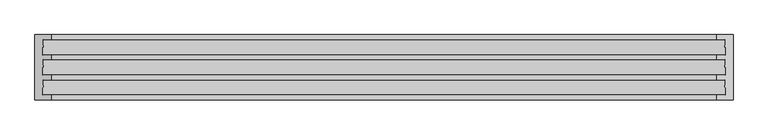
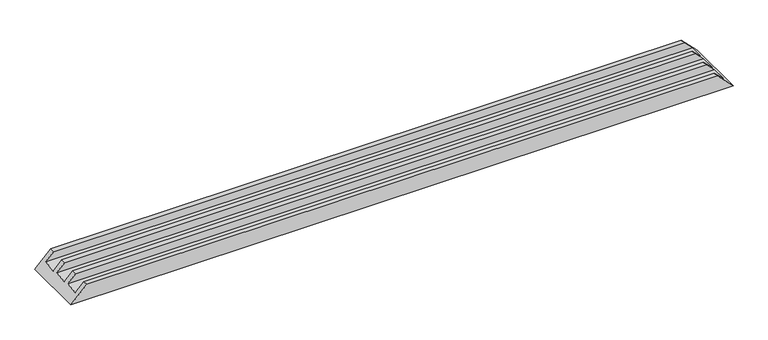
"""IFC4 building model written with IfcOpenShell, lengths in millimetres: proxy geometry, Weiku - Montante - Caixilho quadruplo 02.2.01.003-002 refilado : Weiku - Montante - Caixilho quadruplo 02.2.01.003-002 refilado."""

from ifc_helpers import new_model, si_unit, origin, place, context, project, spatial, faceted_brep, source, transform, mapped, element, save


def generic_models_db702dd2(model_context):
    return source(origin(), model_context, "Body", "Brep", [
        faceted_brep([(-1049.5, -77.0, 26.0), (1049.5, -77.0, 26.0), (1023.5, -77.0, 52.0), (-1023.5, -77.0, 52.0), (-1051.7229744, -124.0, 23.7770256), (1051.7229744, -124.0, 23.7770256), (-1023.5, -124.0, 52.0), (1023.5, -124.0, 52.0), (-1023.5, -139.0, 52.0), (1023.5, -139.0, 52.0), (-1075.5, -201.0, 0.0), (-1075.5, 0.0, 0.0), (1075.5, 0.0, 0.0), (1075.5, -201.0, 0.0), (1023.5, -62.0, 52.0), (-1023.5, -62.0, 52.0), (-1049.5, -139.0, 26.0), (1049.5, -139.0, 26.0), (-1051.7229744, -186.0, 23.7770256), (1051.7229744, -186.0, 23.7770256), (-1023.5, -186.0, 52.0), (1023.5, -186.0, 52.0), (-1023.5, -201.0, 52.0), (1023.5, -201.0, 52.0), (-1023.5, 0.0, 52.0), (1023.5, 0.0, 52.0), (-1023.5, -15.0, 52.0), (1023.5, -15.0, 52.0), (-1049.5, -15.0, 26.0), (1049.5, -15.0, 26.0), (-1051.7229744, -62.0, 23.7770256), (1051.7229744, -62.0, 23.7770256)], [[[0, 1, 2, 3]], [[4, 5, 1, 0]], [[6, 7, 5, 4]], [[8, 9, 7, 6]], [[10, 11, 12, 13]], [[3, 2, 14, 15]], [[16, 17, 9, 8]], [[18, 19, 17, 16]], [[20, 21, 19, 18]], [[22, 23, 21, 20]], [[13, 23, 22, 10]], [[11, 24, 25, 12]], [[26, 27, 25, 24]], [[28, 29, 27, 26]], [[30, 31, 29, 28]], [[15, 14, 31, 30]], [[3, 15, 30, 28, 26, 24, 11, 10, 22, 20, 18, 16, 8, 6, 4, 0]], [[1, 5, 7, 9, 17, 19, 21, 23, 13, 12, 25, 27, 29, 31, 14, 2]]]),
    ])


if __name__ == "__main__":
    model = new_model("IFC4")
    model_context = context("Model", 3, world=origin())
    ifc_project = project(units=[si_unit("LENGTHUNIT", "METRE", prefix="MILLI")], contexts=[model_context])
    site = spatial("IfcSite", under=ifc_project)
    building = spatial("IfcBuilding", under=site)
    placement = place(None, origin())
    generic_models_shape = generic_models_db702dd2(model_context)
    element("IfcBuildingElementProxy", 1, Name="Weiku - Montante - Caixilho quadruplo 02.2.01.003-002 refilado : Weiku - Montante - Caixilho quadruplo 02.2.01.003-002 refilado", ObjectType="Weiku - Montante - Caixilho quadruplo 02.2.01.003-002 refilado : Weiku - Montante - Caixilho quadruplo 02.2.01.003-002 refilado", at=placement, inside=building, context=model_context, shape_type="MappedRepresentation", body=[
        mapped(generic_models_shape, transform((0.0, 0.0, 0.0), x_axis=(1.0, 0.0, 0.0), y_axis=(0.0, 1.0, 0.0), z_axis=(0.0, 0.0, 1.0))),
    ])
    save(model, "model.ifc")
